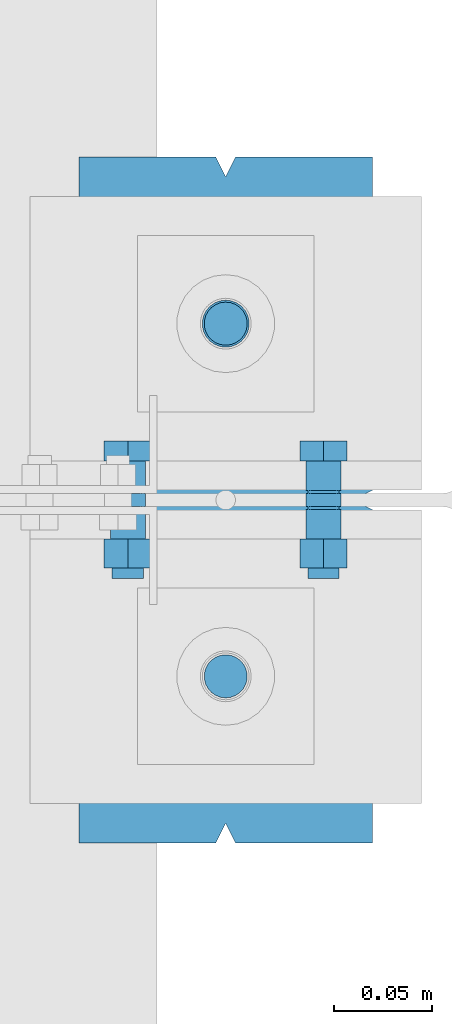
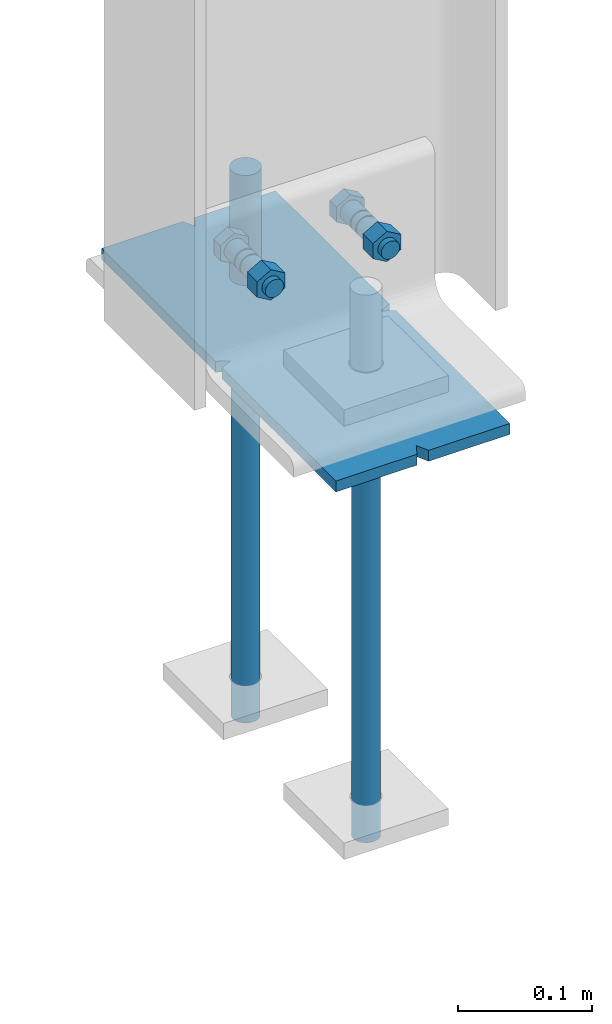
# One storey, part 67 of 123: 4 discrete accessories, 1 mechanical fastener, 2 elements without a shape of their own.
"""IFC2X3 building model written with IfcOpenShell, lengths in millimetres."""

from ifc_helpers import new_model, si_unit, frame, origin_with_axes, origin_2d_with_axis, place, context, subcontext, project, spatial, polyline, circle, outline, extrude, boolean, source, transform, mapped, material, type_object, element, aggregate, save


model = new_model("IFC2X3")

# Units and contexts
model_context = context("Model", 3, precision=1e-05, world=origin_with_axes())
body_context = subcontext(model_context, "Body", "Model", "MODEL_VIEW")
ifc_project = project(units=[si_unit("LENGTHUNIT", "METRE", prefix="MILLI"), si_unit("AREAUNIT", "SQUARE_METRE"), si_unit("VOLUMEUNIT", "CUBIC_METRE"), si_unit("MASSUNIT", "GRAM", prefix="KILO"), si_unit("TIMEUNIT", "SECOND"), si_unit("PLANEANGLEUNIT", "RADIAN"), si_unit("SOLIDANGLEUNIT", "STERADIAN"), si_unit("THERMODYNAMICTEMPERATUREUNIT", "DEGREE_CELSIUS"), si_unit("LUMINOUSINTENSITYUNIT", "LUMEN")], contexts=[model_context])

# Site, building, storey
site_placement = place(None, origin_with_axes())
site = spatial("IfcSite", under=ifc_project, at=site_placement, Name="Undefined", CompositionType="ELEMENT")
building_placement = place(site_placement, origin_with_axes())
building = spatial("IfcBuilding", under=site, at=building_placement, Name="Undefined", CompositionType="ELEMENT")
storey_placement = place(building_placement, origin_with_axes())
storey = spatial("IfcBuildingStorey", under=building, at=storey_placement, Name="Undefined", CompositionType="ELEMENT", Elevation=0.0)

# Assembly, discrete accessories
assembly_1_placement = place(storey_placement, origin_with_axes())
assembly_1 = element("IfcElementAssembly", 1, at=assembly_1_placement, inside=storey, Name="Steel Assembly", AssemblyPlace="NOTDEFINED", PredefinedType="RIGID_FRAME")
ifc_material_1 = material(Name="STEEL/S235-E24")
discrete_accessory_type_1 = type_object("IfcDiscreteAccessoryType", Name="TIGE D'ANCRAGE")
discrete_accessory_1_placement = place(assembly_1_placement, frame((-45.0, 7509.99715044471, -300.0), z_axis=(-1.0, 0.0, 0.0), x_axis=(0.0, 0.0, -1.0)))
discrete_accessory_1 = element("IfcDiscreteAccessory", 2, at=discrete_accessory_1_placement, type_object=discrete_accessory_type_1, material=ifc_material_1, Name="TIGE D'ANCRAGE", ObjectType="D22", context=body_context, shape_type="SweptSolid", body=[
    extrude(circle(Radius=11.0, at=origin_2d_with_axis()), frame((350.0, 0.0, 0.0), z_axis=(-1.0, 0.0, 0.0), x_axis=(0.0, -1.0, 0.0)), (0.0, 0.0, 1.0), 350.0),
])
discrete_accessory_2_placement = place(assembly_1_placement, frame((-45.0, 7689.99715044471, -150.0), z_axis=(-1.0, 0.0, 0.0), x_axis=(0.0, 0.0, -1.0)))
discrete_accessory_2 = element("IfcDiscreteAccessory", 3, at=discrete_accessory_2_placement, type_object=discrete_accessory_type_1, material=ifc_material_1, Name="TIGE D'ANCRAGE", ObjectType="D24", context=body_context, shape_type="SweptSolid", body=[
    extrude(circle(Radius=12.0, at=origin_2d_with_axis()), frame((150.0, 0.0, 0.0), z_axis=(-1.0, 0.0, 0.0), x_axis=(0.0, -1.0, 0.0)), (0.0, 0.0, 1.0), 150.0),
])
discrete_accessory_3_placement = place(assembly_1_placement, frame((-45.0, 7689.99715044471, -300.0), z_axis=(-1.0, 0.0, 0.0), x_axis=(0.0, 0.0, -1.0)))
discrete_accessory_3 = element("IfcDiscreteAccessory", 4, at=discrete_accessory_3_placement, type_object=discrete_accessory_type_1, material=ifc_material_1, Name="TIGE D'ANCRAGE", ObjectType="D22", context=body_context, shape_type="SweptSolid", body=[
    extrude(circle(Radius=11.0, at=origin_2d_with_axis()), frame((350.0, 0.0, 0.0), z_axis=(-1.0, 0.0, 0.0), x_axis=(0.0, -1.0, 0.0)), (0.0, 0.0, 1.0), 350.0),
])
discrete_accessory_type_2 = type_object("IfcDiscreteAccessoryType", Name="PRESCELLEMENT PS24")
discrete_accessory_4_placement = place(assembly_1_placement, frame((-45.0, 7775.0, -255.0), z_axis=(0.0, 0.0, 1.0), x_axis=(0.0, -1.0, 0.0)))
discrete_accessory_4 = element("IfcDiscreteAccessory", 5, at=discrete_accessory_4_placement, type_object=discrete_accessory_type_2, material=ifc_material_1, Name="PRESCELLEMENT PS24", ObjectType="PL10*150", context=body_context, shape_type="CSG", body=[
    boolean("DIFFERENCE", boolean("DIFFERENCE", boolean("DIFFERENCE", boolean("DIFFERENCE", extrude(outline(polyline([(9.99999993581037, -3.76858224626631e-08), (0.0, 5.00000014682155), (0.0, 75.0), (170.0, 75.0), (174.999999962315, 65.0000000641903), (180.000000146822, 75.0), (350.0, 75.0), (350.0, 5.00000018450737), (340.0, 0.0), (350.0, -4.99999996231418), (350.0, -75.0), (180.0, -75.0), (175.000000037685, -65.0000000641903), (169.999999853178, -74.9999999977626), (0.0, -75.0), (0.0, -5.0), (9.99999993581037, -3.76858224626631e-08)])), frame((0.0, 0.0, -5.0), z_axis=(0.0, 0.0, 1.0), x_axis=(1.0, 0.0, 0.0)), (0.0, 0.0, 1.0), 10.0), extrude(outline(polyline([(0.0, 0.0), (11.1803398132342, 1.2732925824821e-11), (4.47213602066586, 8.94427204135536), (0.0, 0.0)])), frame((0.0, -5.0, -7.5), z_axis=(0.0, 0.0, 1.0), x_axis=(0.89442719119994, 0.44721359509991, 0.0)), (0.0, 0.0, 1.0), 15.0)), extrude(outline(polyline([(0.0, 0.0), (11.1803398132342, 1.2732925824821e-11), (4.47213602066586, 8.94427204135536), (0.0, 0.0)])), frame((180.0, -75.0, -7.5), z_axis=(0.0, 0.0, 1.0), x_axis=(-0.447213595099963, 0.894427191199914, 0.0)), (0.0, 0.0, 1.0), 15.0)), extrude(outline(polyline([(0.0, 0.0), (11.1803398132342, 1.2732925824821e-11), (6.70820379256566, 8.94427204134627), (0.0, 0.0)])), frame((340.0, 0.0, -7.5), z_axis=(0.0, 0.0, 1.0), x_axis=(0.89442719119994, -0.44721359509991, 0.0)), (0.0, 0.0, 1.0), 15.0)), extrude(outline(polyline([(0.0, 0.0), (11.1803398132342, 1.2732925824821e-11), (4.47213602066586, 8.94427204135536), (0.0, 0.0)])), frame((170.0, 75.0, -7.5), z_axis=(0.0, 0.0, 1.0), x_axis=(0.447213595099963, -0.894427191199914, 0.0)), (0.0, 0.0, 1.0), 15.0)),
])
aggregate(assembly_1, [discrete_accessory_1, discrete_accessory_2, discrete_accessory_3, discrete_accessory_4])

# Assembly, mechanical fastener
assembly_2_placement = place(storey_placement, origin_with_axes())
assembly_2 = element("IfcElementAssembly", 6, at=assembly_2_placement, inside=storey, Name="Steel Assembly", AssemblyPlace="NOTDEFINED", PredefinedType="RIGID_FRAME")
ifc_material_2 = material(Name="8.8-SB-Z")
discrete_accessory_type_3 = type_object("IfcDiscreteAccessoryType", Name="Bolt assembly")
shared_shape = source(origin_with_axes(), body_context, "Body", "SweptSolid", [
    extrude(circle(Radius=9.0, at=origin_2d_with_axis()), frame((0.0, -3.29999995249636, 0.0), z_axis=(0.0, 1.0, 0.0), x_axis=(1.0, 0.0, 0.0)), (0.0, 0.0, 1.0), 6.6),
    extrude(circle(Radius=9.0, at=origin_2d_with_axis()), frame((0.0, 4.90000000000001, 0.0), z_axis=(0.0, 1.0, 0.0), x_axis=(1.0, 0.0, 0.0)), (0.0, 0.0, 1.0), 15.1),
    extrude(circle(Radius=9.0, at=origin_2d_with_axis()), frame((0.0, -19.9, 0.0), z_axis=(0.0, 1.0, 0.0), x_axis=(1.0, 0.0, 0.0)), (0.0, 0.0, 1.0), 15.0),
    extrude(outline(polyline([(13.85640646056, 0.0), (6.92820323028, 12.0000000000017), (-6.92820323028, 12.0000000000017), (-13.85640646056, 0.0), (-6.92820323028, -12.0000000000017), (6.92820323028, -12.0000000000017), (13.85640646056, 0.0)])), frame((0.0, -30.0, 0.0), z_axis=(0.0, 1.0, 0.0), x_axis=(1.0, 0.0, 0.0)), (0.0, 0.0, 1.0), 10.0),
    extrude(circle(Radius=8.0, at=origin_2d_with_axis()), frame((0.0, -20.0, 0.0), z_axis=(0.0, 1.0, 0.0), x_axis=(1.0, 0.0, 0.0)), (0.0, 0.0, 1.0), 60.0),
    extrude(outline(polyline([(13.85640646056, 0.0), (6.92820323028, 12.0000000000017), (-6.92820323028, 12.0000000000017), (-13.85640646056, 0.0), (-6.92820323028, -12.0000000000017), (6.92820323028, -12.0000000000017), (13.85640646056, 0.0)])), frame((0.0, 20.0, 0.0), z_axis=(0.0, 1.0, 0.0), x_axis=(1.0, 0.0, 0.0)), (0.0, 0.0, 1.0), 14.8),
])
mechanical_fastener_placement = place(assembly_2_placement, frame((-45.0, 7600.0, -165.0), z_axis=(-1.0, 0.0, 0.0), x_axis=(0.0, 0.0, -1.0)))
mechanical_fastener = element("IfcMechanicalFastener", 7, at=mechanical_fastener_placement, type_object=discrete_accessory_type_3, material=ifc_material_2, Name="Bolt assembly", NominalDiameter=16.0, NominalLength=60.0, context=body_context, shape_type="MappedRepresentation", body=[
    mapped(shared_shape, transform((0.0, 0.0, -50.0))),
    mapped(shared_shape, transform((0.0, 0.0, 50.0))),
])
aggregate(assembly_2, [mechanical_fastener])

save(model, "model.ifc")
